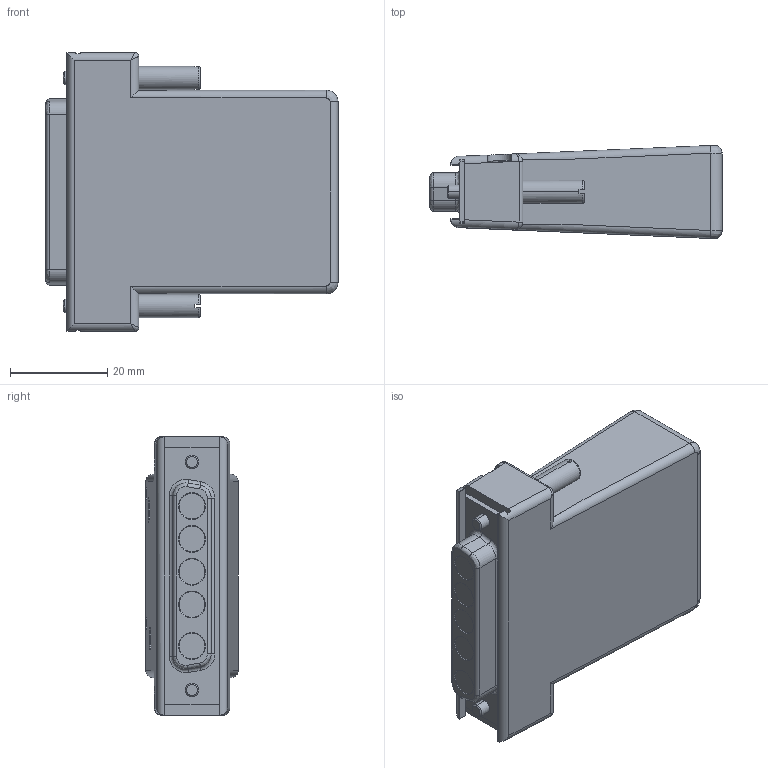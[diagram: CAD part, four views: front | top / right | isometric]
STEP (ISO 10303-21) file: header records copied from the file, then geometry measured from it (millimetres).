
FILE_DESCRIPTION (( 'STEP AP203' ), '1' );
FILE_NAME ('100931.STEP', '2015-10-06T21:19:23', ( '' ), ( '' ), 'SwSTEP 2.0', 'SolidWorks 2012', '' );
FILE_SCHEMA (( 'CONFIG_CONTROL_DESIGN' ));
Length unit declared in the file: centimetre
Products named in the file (1): 100931
Bounding box: 60.2 x 19.16 x 57.4 mm (x, y, z)
Volume: 43576.4 mm3; surface area: 9965 mm2
Topology: 1 solids, 1 shells, 267 faces, 675 edges, 432 vertices
Faces by surface type: plane 161, cylinder 66, bspline 26, cone 14
Entity records: 9178 total; most frequent: CARTESIAN_POINT 2885, ORIENTED_EDGE 1338, DIRECTION 1213, EDGE_CURVE 669, VECTOR 445, LINE 445, VERTEX_POINT 432, AXIS2_PLACEMENT_3D 384
